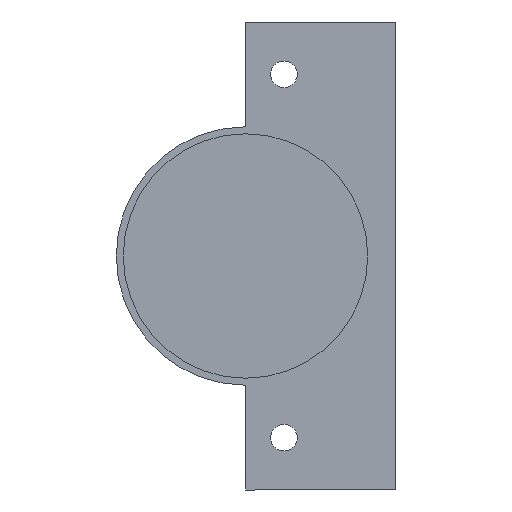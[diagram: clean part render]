
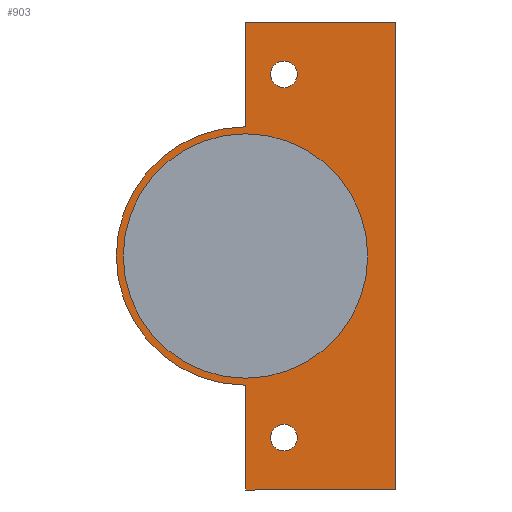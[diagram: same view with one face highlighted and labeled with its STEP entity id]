
A CAD part, front view. The second image highlights one B-rep face of the part: STEP entity #903.
In plain terms, the highlighted planar face has unit normal (0, -1, 0).
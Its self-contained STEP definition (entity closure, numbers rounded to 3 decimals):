
#51 = AXIS2_PLACEMENT_3D ( 'NONE', #565, #571, #572 ) ;
#52 = AXIS2_PLACEMENT_3D ( 'NONE', #559, #560, #561 ) ;
#53 = AXIS2_PLACEMENT_3D ( 'NONE', #581, #586, #587 ) ;
#61 = AXIS2_PLACEMENT_3D ( 'NONE', #702, #703, #704 ) ;
#66 = AXIS2_PLACEMENT_3D ( 'NONE', #664, #687, #688 ) ;
#67 = AXIS2_PLACEMENT_3D ( 'NONE', #681, #691, #692 ) ;
#75 = CARTESIAN_POINT ( 'NONE',  ( 19.4, 0., -26. ) ) ;
#84 = VERTEX_POINT ( 'NONE', #165 ) ;
#85 = VERTEX_POINT ( 'NONE', #75 ) ;
#86 = VERTEX_POINT ( 'NONE', #166 ) ;
#91 = VERTEX_POINT ( 'NONE', #171 ) ;
#97 = VERTEX_POINT ( 'NONE', #177 ) ;
#98 = VERTEX_POINT ( 'NONE', #178 ) ;
#100 = VERTEX_POINT ( 'NONE', #180 ) ;
#103 = VERTEX_POINT ( 'NONE', #183 ) ;
#107 = VERTEX_POINT ( 'NONE', #187 ) ;
#108 = VERTEX_POINT ( 'NONE', #188 ) ;
#109 = VERTEX_POINT ( 'NONE', #189 ) ;
#112 = VERTEX_POINT ( 'NONE', #192 ) ;
#165 = CARTESIAN_POINT ( 'NONE',  ( 33.5, 0., 33.5 ) ) ;
#166 = CARTESIAN_POINT ( 'NONE',  ( 33.5, 0., -33.5 ) ) ;
#171 = CARTESIAN_POINT ( 'NONE',  ( 15.6, 0., 26. ) ) ;
#177 = CARTESIAN_POINT ( 'NONE',  ( -5.5, 0., 0. ) ) ;
#178 = CARTESIAN_POINT ( 'NONE',  ( 19.4, 0., 26. ) ) ;
#180 = CARTESIAN_POINT ( 'NONE',  ( 15.6, 0., -26. ) ) ;
#183 = CARTESIAN_POINT ( 'NONE',  ( 29.5, 0., 0. ) ) ;
#187 = CARTESIAN_POINT ( 'NONE',  ( 12., 0., 18.5 ) ) ;
#188 = CARTESIAN_POINT ( 'NONE',  ( 12., 0., 33.5 ) ) ;
#189 = CARTESIAN_POINT ( 'NONE',  ( 12., 0., -33.5 ) ) ;
#192 = CARTESIAN_POINT ( 'NONE',  ( 12., 0., -18.5 ) ) ;
#258 = PLANE ( 'NONE',  #950 ) ;
#265 = CARTESIAN_POINT ( 'NONE',  ( 12., 0., 0. ) ) ;
#270 = DIRECTION ( 'NONE',  ( 0., 1., 0. ) ) ;
#271 = DIRECTION ( 'NONE',  ( -1., 0., 0. ) ) ;
#439 = CARTESIAN_POINT ( 'NONE',  ( 12., 0., 0. ) ) ;
#440 = DIRECTION ( 'NONE',  ( 0., -1., 0. ) ) ;
#441 = DIRECTION ( 'NONE',  ( -1., 0., 0. ) ) ;
#559 = CARTESIAN_POINT ( 'NONE',  ( 17.5, 0., -26. ) ) ;
#560 = DIRECTION ( 'NONE',  ( 0., 1., 0. ) ) ;
#561 = DIRECTION ( 'NONE',  ( -1., 0., 0. ) ) ;
#562 = CARTESIAN_POINT ( 'NONE',  ( 12., 0., 18.5 ) ) ;
#565 = CARTESIAN_POINT ( 'NONE',  ( 12., 0., 0. ) ) ;
#566 = DIRECTION ( 'NONE',  ( 0., 0., 1. ) ) ;
#569 = CARTESIAN_POINT ( 'NONE',  ( 12., 0., -33.5 ) ) ;
#570 = DIRECTION ( 'NONE',  ( 0., 0., 1. ) ) ;
#571 = DIRECTION ( 'NONE',  ( 0., -1., 0. ) ) ;
#572 = DIRECTION ( 'NONE',  ( -1., 0., 0. ) ) ;
#573 = CARTESIAN_POINT ( 'NONE',  ( 33.5, 0., 33.5 ) ) ;
#576 = DIRECTION ( 'NONE',  ( 0., 0., -1. ) ) ;
#579 = CARTESIAN_POINT ( 'NONE',  ( 12., 0., 33.5 ) ) ;
#580 = DIRECTION ( 'NONE',  ( 1., 0., 0. ) ) ;
#581 = CARTESIAN_POINT ( 'NONE',  ( 17.5, 0., 26. ) ) ;
#586 = DIRECTION ( 'NONE',  ( 0., 1., 0. ) ) ;
#587 = DIRECTION ( 'NONE',  ( -1., 0., 0. ) ) ;
#664 = CARTESIAN_POINT ( 'NONE',  ( 17.5, 0., 26. ) ) ;
#681 = CARTESIAN_POINT ( 'NONE',  ( 12., 0., 0. ) ) ;
#687 = DIRECTION ( 'NONE',  ( 0., 1., 0. ) ) ;
#688 = DIRECTION ( 'NONE',  ( -1., 0., 0. ) ) ;
#689 = CARTESIAN_POINT ( 'NONE',  ( 33.5, 0., -33.5 ) ) ;
#690 = DIRECTION ( 'NONE',  ( -1., 0., 0. ) ) ;
#691 = DIRECTION ( 'NONE',  ( 0., 1., 0. ) ) ;
#692 = DIRECTION ( 'NONE',  ( -1., 0., 0. ) ) ;
#702 = CARTESIAN_POINT ( 'NONE',  ( 17.5, 0., -26. ) ) ;
#703 = DIRECTION ( 'NONE',  ( 0., 1., 0. ) ) ;
#704 = DIRECTION ( 'NONE',  ( -1., 0., 0. ) ) ;
#764 = LINE ( 'NONE', #562, #767 ) ;
#766 = CIRCLE ( 'NONE', #52, 1.9 ) ;
#767 = VECTOR ( 'NONE', #566, 1000. ) ;
#768 = LINE ( 'NONE', #573, #776 ) ;
#771 = LINE ( 'NONE', #569, #772 ) ;
#772 = VECTOR ( 'NONE', #570, 1000. ) ;
#775 = CIRCLE ( 'NONE', #51, 17.5 ) ;
#776 = VECTOR ( 'NONE', #576, 1000. ) ;
#779 = LINE ( 'NONE', #579, #780 ) ;
#780 = VECTOR ( 'NONE', #580, 1000. ) ;
#786 = CIRCLE ( 'NONE', #53, 1.9 ) ;
#812 = LINE ( 'NONE', #689, #860 ) ;
#860 = VECTOR ( 'NONE', #690, 1000. ) ;
#864 = CIRCLE ( 'NONE', #66, 1.9 ) ;
#867 = CIRCLE ( 'NONE', #67, 18.5 ) ;
#874 = CIRCLE ( 'NONE', #61, 1.9 ) ;
#903 = ADVANCED_FACE ( 'NONE', ( #1106, #1099, #1097, #1095 ), #258, .F. ) ;
#950 = AXIS2_PLACEMENT_3D ( 'NONE', #265, #270, #271 ) ;
#956 = EDGE_CURVE ( 'NONE', #103, #97, #1480, .T. ) ;
#1017 = EDGE_CURVE ( 'NONE', #100, #85, #766, .T. ) ;
#1019 = EDGE_CURVE ( 'NONE', #107, #108, #764, .T. ) ;
#1021 = EDGE_CURVE ( 'NONE', #109, #112, #771, .T. ) ;
#1022 = EDGE_CURVE ( 'NONE', #97, #103, #775, .T. ) ;
#1024 = EDGE_CURVE ( 'NONE', #84, #86, #768, .T. ) ;
#1026 = EDGE_CURVE ( 'NONE', #108, #84, #779, .T. ) ;
#1029 = EDGE_CURVE ( 'NONE', #98, #91, #786, .T. ) ;
#1073 = EDGE_CURVE ( 'NONE', #91, #98, #864, .T. ) ;
#1074 = EDGE_CURVE ( 'NONE', #86, #109, #812, .T. ) ;
#1075 = EDGE_CURVE ( 'NONE', #112, #107, #867, .T. ) ;
#1080 = EDGE_CURVE ( 'NONE', #85, #100, #874, .T. ) ;
#1095 = FACE_BOUND ( 'NONE', #1410, .T. ) ;
#1097 = FACE_BOUND ( 'NONE', #1411, .T. ) ;
#1099 = FACE_BOUND ( 'NONE', #1418, .T. ) ;
#1106 = FACE_OUTER_BOUND ( 'NONE', #1421, .T. ) ;
#1173 = ORIENTED_EDGE ( 'NONE', *, *, #1075, .F. ) ;
#1183 = ORIENTED_EDGE ( 'NONE', *, *, #1074, .F. ) ;
#1184 = ORIENTED_EDGE ( 'NONE', *, *, #1026, .F. ) ;
#1185 = ORIENTED_EDGE ( 'NONE', *, *, #1019, .F. ) ;
#1186 = ORIENTED_EDGE ( 'NONE', *, *, #1021, .F. ) ;
#1187 = ORIENTED_EDGE ( 'NONE', *, *, #1073, .T. ) ;
#1188 = ORIENTED_EDGE ( 'NONE', *, *, #1029, .T. ) ;
#1189 = ORIENTED_EDGE ( 'NONE', *, *, #1017, .T. ) ;
#1190 = ORIENTED_EDGE ( 'NONE', *, *, #1080, .T. ) ;
#1191 = ORIENTED_EDGE ( 'NONE', *, *, #1022, .F. ) ;
#1192 = ORIENTED_EDGE ( 'NONE', *, *, #956, .F. ) ;
#1366 = ORIENTED_EDGE ( 'NONE', *, *, #1024, .F. ) ;
#1410 = EDGE_LOOP ( 'NONE', ( #1191, #1192 ) ) ;
#1411 = EDGE_LOOP ( 'NONE', ( #1189, #1190 ) ) ;
#1418 = EDGE_LOOP ( 'NONE', ( #1187, #1188 ) ) ;
#1421 = EDGE_LOOP ( 'NONE', ( #1183, #1366, #1184, #1185, #1173, #1186 ) ) ;
#1480 = CIRCLE ( 'NONE', #1543, 17.5 ) ;
#1543 = AXIS2_PLACEMENT_3D ( 'NONE', #439, #440, #441 ) ;
